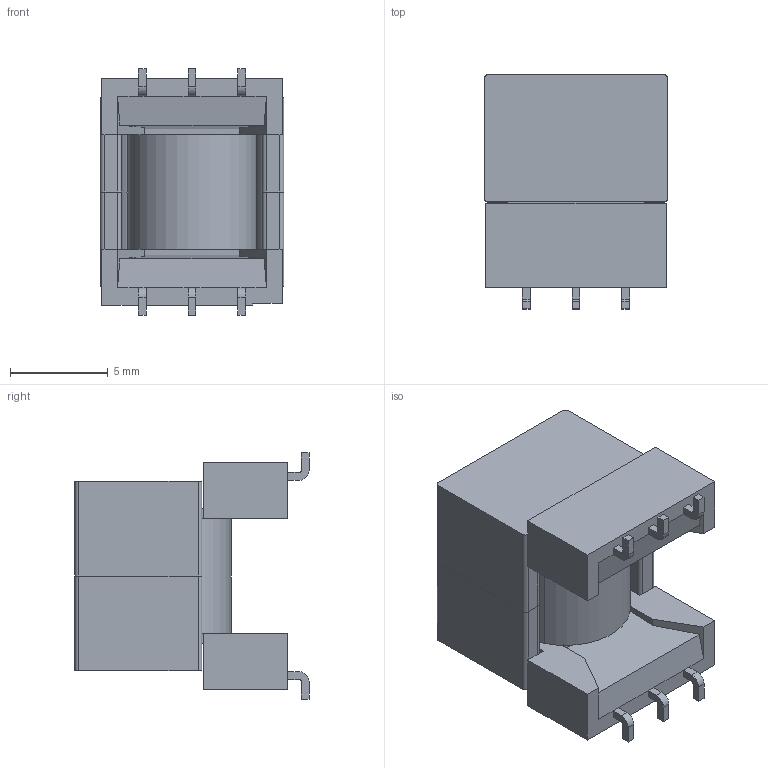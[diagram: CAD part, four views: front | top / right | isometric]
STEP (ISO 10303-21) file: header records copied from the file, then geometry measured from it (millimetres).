
FILE_DESCRIPTION (( 'STEP AP203' ), '1' );
FILE_NAME ('PH9185NL.STEP', '2016-10-21T02:31:12', ( '' ), ( '' ), 'SwSTEP 2.0', 'SolidWorks 2015', '' );
FILE_SCHEMA (( 'CONFIG_CONTROL_DESIGN' ));
Length unit declared in the file: millimetre
Products named in the file (4): 042-2546.001; 032-2255.001; coil; PH9185NL
Assembly tree (4 placements, depth 2):
  PH9185NL
    042-2546.001
    032-2255.001  x2
    coil
Bounding box: 9.4 x 11.98 x 12.6 mm (x, y, z)
Volume: 829.9 mm3; surface area: 1492.2 mm2
Topology: 4 solids, 4 shells, 138 faces, 370 edges, 242 vertices
Faces by surface type: plane 98, cylinder 40
Entity records: 4162 total; most frequent: CARTESIAN_POINT 658, ORIENTED_EDGE 644, DIRECTION 638, EDGE_CURVE 322, VECTOR 258, LINE 258, VERTEX_POINT 210, AXIS2_PLACEMENT_3D 190
